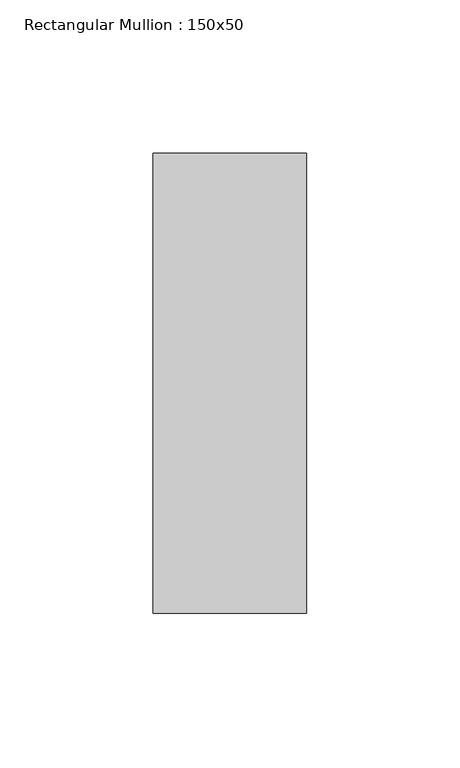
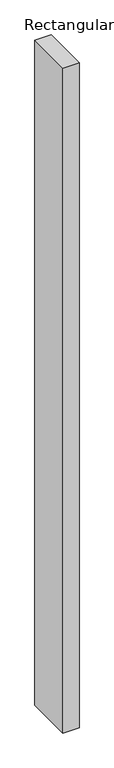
"""IFC4 building model written with IfcOpenShell, lengths in millimetres: member geometry, Rectangular Mullion : 150x50."""

from ifc_helpers import new_model, si_unit, frame, origin, place, context, project, spatial, polyline, outline, extrude, source, transform, mapped, element, save


def rectangular_mullion_150x50_0a54999a(model_context):
    return source(origin(), model_context, "Body", "SweptSolid", [
        extrude(outline(polyline([(0.0, 75.0), (0.0, -75.0), (-50.0, -75.0), (-50.0, 75.0), (0.0, 75.0)])), frame((0.0, 0.0, -2175.0), z_axis=(0.0, 0.0, 1.0), x_axis=(1.0, 0.0, 0.0)), (0.0, 0.0, 1.0), 2175.0),
    ])


if __name__ == "__main__":
    model = new_model("IFC4")
    model_context = context("Model", 3, world=origin())
    ifc_project = project(units=[si_unit("LENGTHUNIT", "METRE", prefix="MILLI")], contexts=[model_context])
    site = spatial("IfcSite", under=ifc_project)
    building = spatial("IfcBuilding", under=site)
    placement = place(None, origin())
    rectangular_mullion_150x50_shape = rectangular_mullion_150x50_0a54999a(model_context)
    element("IfcMember", 1, ObjectType="Rectangular Mullion : 150x50", at=placement, inside=building, context=model_context, shape_type="MappedRepresentation", body=[
        mapped(rectangular_mullion_150x50_shape, transform((0.0, 0.0, 0.0), x_axis=(1.0, 0.0, 0.0), y_axis=(0.0, 1.0, 0.0), z_axis=(0.0, 0.0, 1.0))),
    ])
    save(model, "model.ifc")
